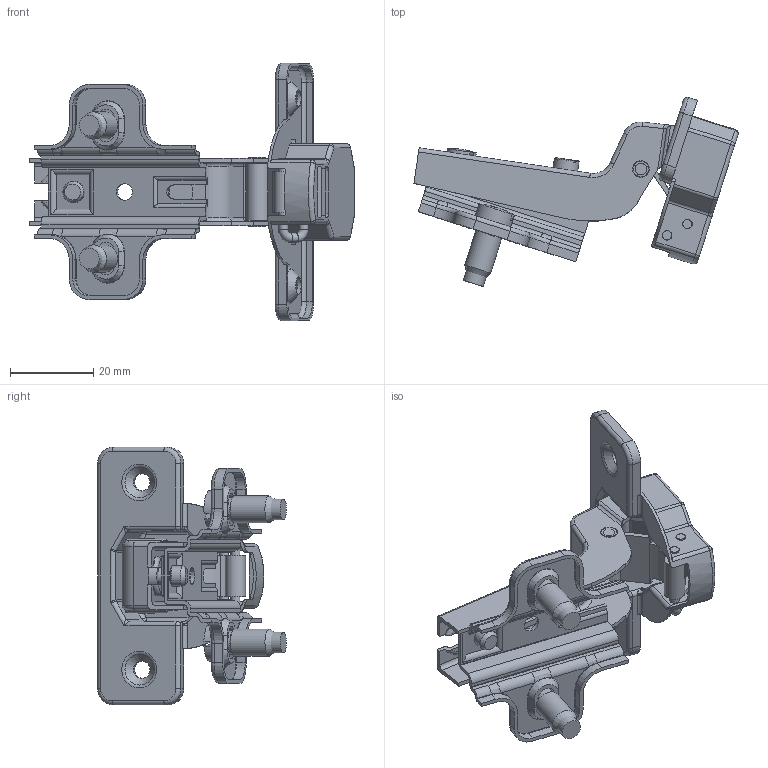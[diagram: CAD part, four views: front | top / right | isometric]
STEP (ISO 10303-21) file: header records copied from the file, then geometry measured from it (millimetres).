
FILE_DESCRIPTION(/* description */ (''),/* implementation_level */ '2;1');
FILE_NAME(/* name */ 'W:\R&D\pub\Katalog techniczny\bryły 3D\ZP-BICN072ZE.stp',/* time_stamp */ '2016-09-13T12:51:39+02:00',/* author */ ('tomaszw'),/* organization */ (''),/* preprocessor_version */ 'ST-DEVELOPER v16.1',/* originating_system */ 'Autodesk Inventor 2016',/* authorisation */ '');
FILE_SCHEMA (('AUTOMOTIVE_DESIGN { 1 0 10303 214 3 1 1 }'));
Length unit declared in the file: millimetre
Products named in the file (12): P2; ZP-BICN070BE; ZP-BICN0_1; ZP-BICN0-P; ZP-BICN0_2; ZP-BICN0_pin1; ZP-BICN0_pin2; ZP-BICN0_pin3; Euro; Wkret4x6; WR; ZP-BICN(R)07(8)(9)0(2)BE(ZE)
Assembly tree (12 placements, depth 2):
  ZP-BICN(R)07(8)(9)0(2)BE(ZE)
    P2
    ZP-BICN070BE
    ZP-BICN0_1
    ZP-BICN0-P
    ZP-BICN0_2
    ZP-BICN0_pin1
    ZP-BICN0_pin2
    ZP-BICN0_pin3
    Euro  x2
    Wkret4x6
    WR
Bounding box: 77.92 x 45.41 x 62 mm (x, y, z)
Volume: 9931.1 mm3; surface area: 20674 mm2
Topology: 14 solids, 14 shells, 703 faces, 1733 edges, 1052 vertices
Faces by surface type: cylinder 300, plane 241, torus 71, bspline 35, sphere 34, cone 22
Full cylindrical faces by diameter (mm): 2.2 x3, 2.279 x2, 2.3 x4, 2.5 x4, 2.8 x1, 3 x1, 3.221 x2, 3.242 x1, 3.5 x2, 3.679 x2, 4 x4, 4.2 x2, 5 x3, 5.5 x2, 5.917 x1, 6 x1, 6.5 x2, 7 x1, 9 x2
Entity records: 21076 total; most frequent: CARTESIAN_POINT 4673, DIRECTION 3585, ORIENTED_EDGE 3218, EDGE_CURVE 1609, AXIS2_PLACEMENT_3D 1395, VERTEX_POINT 1008, LINE 795, VECTOR 795
